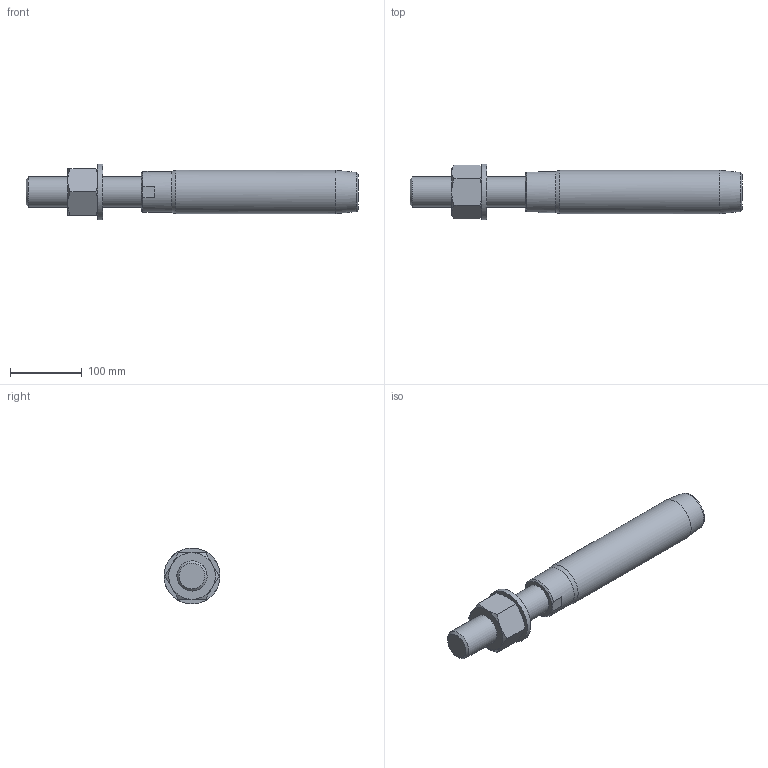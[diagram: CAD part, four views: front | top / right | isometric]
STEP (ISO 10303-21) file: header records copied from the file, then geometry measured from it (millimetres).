
FILE_DESCRIPTION(/* description */ (''),/* implementation_level */ '2;1');
FILE_NAME(/* name */ 'FLT 28_1,4462',/* time_stamp */ '2023-05-23T15:58:06+02:00',/* author */ (''),/* organization */ (''),/* preprocessor_version */ 'ST-DEVELOPER v16.5',/* originating_system */ 'Rhino 7.22',/* authorisation */ '');
FILE_SCHEMA (('CONFIG_CONTROL_DESIGN'));
Length unit declared in the file: millimetre
Products named in the file (1): Document
Bounding box: 463 x 77.97 x 77.98 mm (x, y, z)
Volume: 1192928.2 mm3; surface area: 110521.2 mm2
Topology: 3 solids, 3 shells, 42 faces, 102 edges, 67 vertices
Faces by surface type: bspline 19, plane 17, cylinder 6
Full cylindrical faces by diameter (mm): 38.752 x1, 42 x1, 43 x1, 57.2 x1, 60.5 x1, 78 x1
Entity records: 1559 total; most frequent: CARTESIAN_POINT 861, ORIENTED_EDGE 204, EDGE_CURVE 102, VERTEX_POINT 67, EDGE_LOOP 47, ADVANCED_FACE 42, FACE_OUTER_BOUND 42, DIRECTION 27
